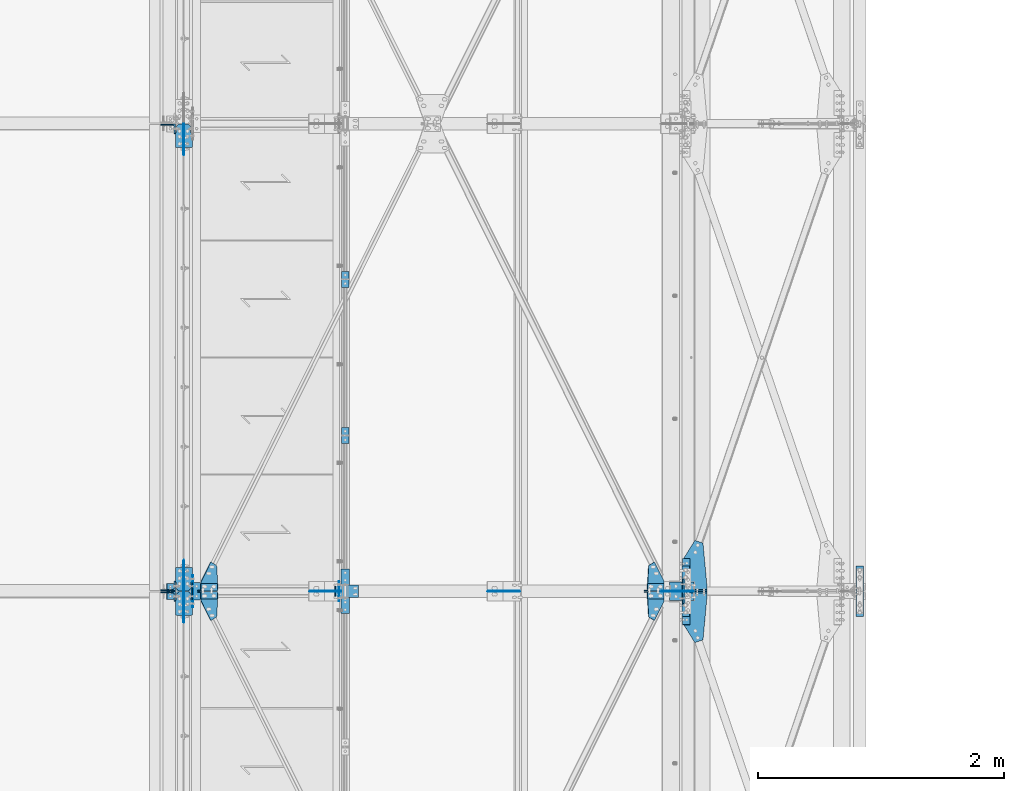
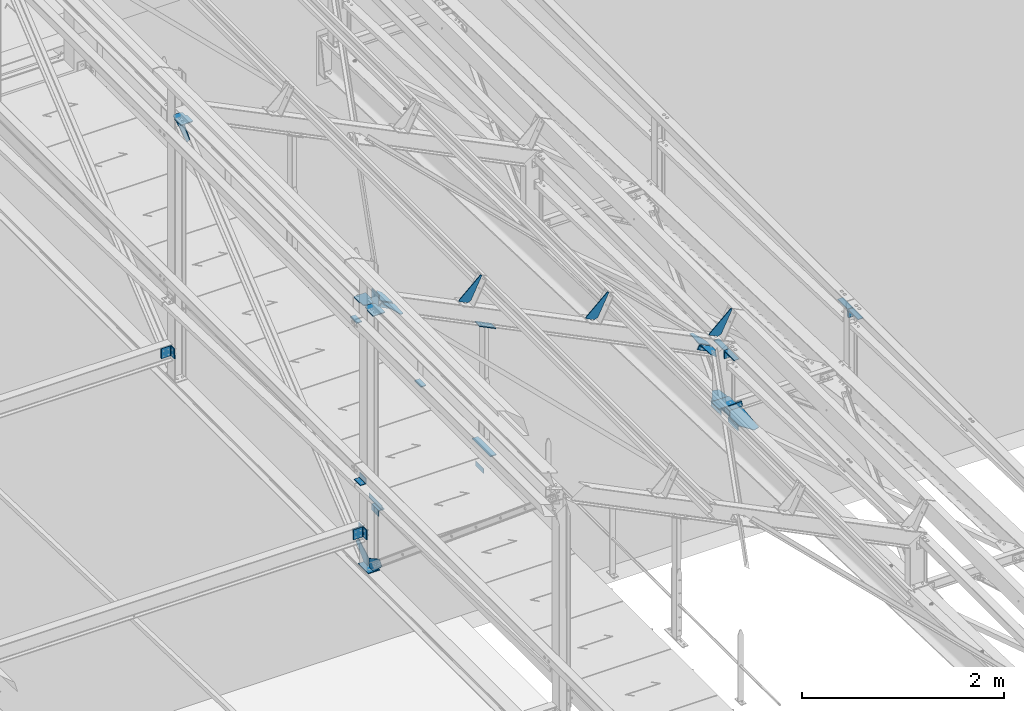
# One storey, part 109 of 362: 30 beams, 10 members, 31 elements without a shape of their own.
"""IFC2X3 building model written with IfcOpenShell, lengths in millimetres."""

from ifc_helpers import new_model, si_unit, frame, frame_2d, origin_with_axes, origin_2d_with_axis, place, context, subcontext, project, spatial, polyline, circle_curve, parameter, trimmed, segment, composite_curve, rectangle, l_section, outline, extrude, material, type_object, element, aggregate, save


model = new_model("IFC2X3")

# Units and contexts
model_context = context("Model", 3, precision=1e-05, world=origin_with_axes())
body_context = subcontext(model_context, "Body", "Model", "MODEL_VIEW")
ifc_project = project(units=[si_unit("LENGTHUNIT", "METRE", prefix="MILLI"), si_unit("AREAUNIT", "SQUARE_METRE"), si_unit("VOLUMEUNIT", "CUBIC_METRE"), si_unit("MASSUNIT", "GRAM", prefix="KILO"), si_unit("TIMEUNIT", "SECOND"), si_unit("PLANEANGLEUNIT", "RADIAN"), si_unit("SOLIDANGLEUNIT", "STERADIAN"), si_unit("THERMODYNAMICTEMPERATUREUNIT", "DEGREE_CELSIUS"), si_unit("LUMINOUSINTENSITYUNIT", "LUMEN")], contexts=[model_context])

# Site, building, storey
site_placement = place(None, origin_with_axes())
site = spatial("IfcSite", under=ifc_project, at=site_placement, Name="Undefined", CompositionType="ELEMENT")
building_placement = place(site_placement, origin_with_axes())
building = spatial("IfcBuilding", under=site, at=building_placement, Name="Undefined", CompositionType="ELEMENT")
storey_placement = place(building_placement, origin_with_axes())
storey = spatial("IfcBuildingStorey", under=building, at=storey_placement, Name="Undefined", CompositionType="ELEMENT", Elevation=0.0)

# Assembly, beams
assembly_1_placement = place(storey_placement, origin_with_axes())
assembly_1 = element("IfcElementAssembly", 1, at=assembly_1_placement, inside=storey, Name="MAIN COURANTE", AssemblyPlace="NOTDEFINED", PredefinedType="NOTDEFINED")
ifc_material = material(Name="Undefined/S235-E24")
beam_type_1 = type_object("IfcBeamType", Name="PL10*60", PredefinedType="NOTDEFINED")
beam_1_placement = place(assembly_1_placement, frame((35593.9917177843, 8930.00343196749, 8245.00000278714), z_axis=(-1.0, 0.0, 0.0), x_axis=(0.0, -1.0, 0.0)))
beam_1 = element("IfcBeam", 2, at=beam_1_placement, type_object=beam_type_1, material=ifc_material, Name="PLATINE", ObjectType="PL10*60", context=body_context, shape_type="SweptSolid", body=[
    extrude(rectangle(XDim=10.0, YDim=60.0, at=origin_2d_with_axis()), frame((130.0, 0.0, 0.0), z_axis=(-1.0, 0.0, 0.0), x_axis=(0.0, -1.0, 0.0)), (0.0, 0.0, 1.0), 130.0),
])
beam_2_placement = place(assembly_1_placement, frame((35593.9917188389, 10200.0034319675, 8245.00000191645), z_axis=(-1.0, 0.0, 0.0), x_axis=(0.0, -1.0, 0.0)))
beam_2 = element("IfcBeam", 3, at=beam_2_placement, type_object=beam_type_1, material=ifc_material, Name="PLATINE", ObjectType="PL10*60", context=body_context, shape_type="SweptSolid", body=[
    extrude(rectangle(XDim=10.0, YDim=60.0, at=origin_2d_with_axis()), frame((130.0, 0.0, 0.0), z_axis=(-1.0, 0.0, 0.0), x_axis=(0.0, -1.0, 0.0)), (0.0, 0.0, 1.0), 130.0),
])
aggregate(assembly_1, [beam_1, beam_2])

# Assembly, beam
assembly_2_placement = place(storey_placement, origin_with_axes())
assembly_2 = element("IfcElementAssembly", 4, at=assembly_2_placement, inside=storey, AssemblyPlace="NOTDEFINED", PredefinedType="NOTDEFINED")
beam_type_2 = type_object("IfcBeamType", Name="L60*6", PredefinedType="NOTDEFINED")
beam_3_placement = place(assembly_2_placement, frame((38365.0000000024, 7527.01910210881, 7657.37684430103), z_axis=(-1.05403257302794e-09, -0.0314112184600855, -0.999506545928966), x_axis=(0.0, -0.999506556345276, 0.031410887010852)))
beam_3 = element("IfcBeam", 5, at=beam_3_placement, type_object=beam_type_2, material=ifc_material, Name="ATTACHE", ObjectType="L60*6", context=body_context, shape_type="SweptSolid", body=[
    extrude(l_section(Depth=60.0, Width=60.0, Thickness=6.0, FilletRadius=8.0, EdgeRadius=4.0, at=origin_2d_with_axis()), frame((200.0, 0.0, 0.0), z_axis=(-1.0, 0.0, 0.0), x_axis=(0.0, -1.0, 0.0)), (0.0, 0.0, 1.0), 200.0),
])
aggregate(assembly_2, [beam_3])

assembly_3_placement = place(storey_placement, origin_with_axes())
assembly_3 = element("IfcElementAssembly", 6, at=assembly_3_placement, inside=storey, AssemblyPlace="NOTDEFINED", PredefinedType="NOTDEFINED")
beam_4_placement = place(assembly_3_placement, frame((38365.0000000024, 7866.85133378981, 7646.69722298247), z_axis=(-1.05403257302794e-09, -0.0314112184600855, -0.999506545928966), x_axis=(0.0, -0.999506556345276, 0.031410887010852)))
beam_4 = element("IfcBeam", 7, at=beam_4_placement, type_object=beam_type_2, material=ifc_material, Name="ATTACHE", ObjectType="L60*6", context=body_context, shape_type="SweptSolid", body=[
    extrude(l_section(Depth=60.0, Width=60.0, Thickness=6.0, FilletRadius=8.0, EdgeRadius=4.0, at=origin_2d_with_axis()), frame((200.0, 0.0, 0.0), z_axis=(-1.0, 0.0, 0.0), x_axis=(0.0, -1.0, 0.0)), (0.0, 0.0, 1.0), 200.0),
])
aggregate(assembly_3, [beam_4])

assembly_4_placement = place(storey_placement, origin_with_axes())
assembly_4 = element("IfcElementAssembly", 8, at=assembly_4_placement, inside=storey, Name="TRAVERSE SHED", AssemblyPlace="NOTDEFINED", PredefinedType="NOTDEFINED")
beam_type_3 = type_object("IfcBeamType", Name="PL10*200", PredefinedType="NOTDEFINED")
beam_5_placement = place(assembly_4_placement, frame((38330.0, 7674.80562184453, 7813.81292929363), z_axis=(-1.0, 0.0, 0.0), x_axis=(0.0, -0.999506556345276, 0.031410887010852)))
beam_5 = element("IfcBeam", 9, at=beam_5_placement, type_object=beam_type_3, material=ifc_material, Name="PLATINE", ObjectType="PL10*200", context=body_context, shape_type="SweptSolid", body=[
    extrude(rectangle(XDim=10.0, YDim=200.0, at=origin_2d_with_axis()), frame((150.0, 0.0, 0.0), z_axis=(-1.0, 0.0, 0.0), x_axis=(0.0, -1.0, 0.0)), (0.0, 0.0, 1.0), 150.0),
])

assembly_5_placement = place(storey_placement, origin_with_axes())
assembly_5 = element("IfcElementAssembly", 10, at=assembly_5_placement, inside=storey, AssemblyPlace="NOTDEFINED", PredefinedType="NOTDEFINED")
beam_type_4 = type_object("IfcBeamType", Name="L70*7", PredefinedType="NOTDEFINED")
beam_6_placement = place(assembly_5_placement, frame((34381.5000576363, 7530.0, 7915.0), z_axis=(1.0, 0.0, 0.0), x_axis=(0.0, 1.0, 0.0)))
beam_6 = element("IfcBeam", 11, at=beam_6_placement, type_object=beam_type_4, material=ifc_material, Name="ATTACHE", ObjectType="L70*7", context=body_context, shape_type="SweptSolid", body=[
    extrude(l_section(Depth=70.0, Width=70.0, Thickness=7.0, FilletRadius=9.0, EdgeRadius=4.5, at=origin_2d_with_axis()), frame((140.0, 0.0, 0.0), z_axis=(-1.0, 0.0, 0.0), x_axis=(0.0, -1.0, 0.0)), (0.0, 0.0, 1.0), 140.0),
])
aggregate(assembly_5, [beam_6])

assembly_6_placement = place(storey_placement, origin_with_axes())
assembly_6 = element("IfcElementAssembly", 12, at=assembly_6_placement, inside=storey, AssemblyPlace="NOTDEFINED", PredefinedType="NOTDEFINED")
beam_7_placement = place(assembly_6_placement, frame((34178.5001163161, 7664.81291402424, 8349.41493629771), z_axis=(0.0, 0.0314135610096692, 0.999506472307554), x_axis=(0.0, -0.999506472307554, 0.031413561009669)))
beam_7 = element("IfcBeam", 13, at=beam_7_placement, type_object=beam_type_4, material=ifc_material, Name="ATTACHE", ObjectType="L70*7", context=body_context, shape_type="SweptSolid", body=[
    extrude(l_section(Depth=70.0, Width=70.0, Thickness=7.0, FilletRadius=9.0, EdgeRadius=4.5, at=origin_2d_with_axis()), frame((130.004127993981, 0.0, 9.02084851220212e-16), z_axis=(-1.0, 0.0, 0.0), x_axis=(0.0, -1.0, 0.0)), (0.0, 0.0, 1.0), 130.0),
])
aggregate(assembly_6, [beam_7])

# Assembly, member
assembly_7_placement = place(storey_placement, origin_with_axes())
assembly_7 = element("IfcElementAssembly", 14, at=assembly_7_placement, inside=storey, AssemblyPlace="NOTDEFINED", PredefinedType="NOTDEFINED")
member_type_1 = type_object("IfcMemberType", Name="L60*6", PredefinedType="NOTDEFINED")
member_1_placement = place(assembly_7_placement, frame((38035.9186042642, 7567.00048471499, 8592.20874331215), z_axis=(0.0, -1.0, 0.0), x_axis=(0.897398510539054, 0.0, -0.44122093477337)))
member_1 = element("IfcMember", 15, at=member_1_placement, type_object=member_type_1, material=ifc_material, Name="ATTACHE", ObjectType="L60*6", context=body_context, shape_type="SweptSolid", body=[
    extrude(l_section(Depth=60.0, Width=60.0, Thickness=6.0, FilletRadius=8.0, EdgeRadius=4.0, at=origin_2d_with_axis()), frame((150.0, 0.0, 0.0), z_axis=(-1.0, 0.0, 0.0), x_axis=(0.0, -1.0, 0.0)), (0.0, 0.0, 1.0), 150.0),
])
aggregate(assembly_7, [member_1])

assembly_8_placement = place(storey_placement, origin_with_axes())
assembly_8 = element("IfcElementAssembly", 16, at=assembly_8_placement, inside=storey, AssemblyPlace="NOTDEFINED", PredefinedType="NOTDEFINED")
member_2_placement = place(assembly_8_placement, frame((38170.5284284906, 7633.00028154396, 8526.02570190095), z_axis=(0.0, 1.0, 0.0), x_axis=(-0.897398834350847, -3.60000012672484e-08, 0.441220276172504)))
member_2 = element("IfcMember", 17, at=member_2_placement, type_object=member_type_1, material=ifc_material, Name="ATTACHE", ObjectType="L60*6", context=body_context, shape_type="SweptSolid", body=[
    extrude(l_section(Depth=60.0, Width=60.0, Thickness=6.0, FilletRadius=8.0, EdgeRadius=4.0, at=origin_2d_with_axis()), frame((150.0, 0.0, 0.0), z_axis=(-1.0, 0.0, 0.0), x_axis=(0.0, -1.0, 0.0)), (0.0, 0.0, 1.0), 150.0),
])
aggregate(assembly_8, [member_2])

assembly_9_placement = place(storey_placement, origin_with_axes())
assembly_9 = element("IfcElementAssembly", 18, at=assembly_9_placement, inside=storey, AssemblyPlace="NOTDEFINED", PredefinedType="NOTDEFINED")
member_3_placement = place(assembly_9_placement, frame((34407.7040963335, 7567.00042689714, 10376.0796849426), z_axis=(0.0, -1.0, 0.0), x_axis=(0.897398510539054, 0.0, -0.44122093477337)))
member_3 = element("IfcMember", 19, at=member_3_placement, type_object=member_type_1, material=ifc_material, Name="ATTACHE", ObjectType="L60*6", context=body_context, shape_type="SweptSolid", body=[
    extrude(l_section(Depth=60.0, Width=60.0, Thickness=6.0, FilletRadius=8.0, EdgeRadius=4.0, at=origin_2d_with_axis()), frame((150.0, 0.0, 0.0), z_axis=(-1.0, 0.0, 0.0), x_axis=(0.0, -1.0, 0.0)), (0.0, 0.0, 1.0), 150.0),
])
aggregate(assembly_9, [member_3])

assembly_10_placement = place(storey_placement, origin_with_axes())
assembly_10 = element("IfcElementAssembly", 20, at=assembly_10_placement, inside=storey, AssemblyPlace="NOTDEFINED", PredefinedType="NOTDEFINED")
member_4_placement = place(assembly_10_placement, frame((34542.3138606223, 7633.00022373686, 10309.896521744), z_axis=(0.0, 1.0, 0.0), x_axis=(-0.897398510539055, -1.29999898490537e-08, 0.441220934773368)))
member_4 = element("IfcMember", 21, at=member_4_placement, type_object=member_type_1, material=ifc_material, Name="ATTACHE", ObjectType="L60*6", context=body_context, shape_type="SweptSolid", body=[
    extrude(l_section(Depth=60.0, Width=60.0, Thickness=6.0, FilletRadius=8.0, EdgeRadius=4.0, at=origin_2d_with_axis()), frame((150.0, 0.0, 0.0), z_axis=(-1.0, 0.0, 0.0), x_axis=(0.0, -1.0, 0.0)), (0.0, 0.0, 1.0), 150.0),
])
aggregate(assembly_10, [member_4])

# Assembly, beam
assembly_11_placement = place(storey_placement, origin_with_axes())
assembly_11 = element("IfcElementAssembly", 22, at=assembly_11_placement, inside=storey, Name="PANNE SHED", AssemblyPlace="NOTDEFINED", PredefinedType="NOTDEFINED")
beam_type_5 = type_object("IfcBeamType", Name="TOLE8*140", PredefinedType="NOTDEFINED")
beam_8_placement = place(assembly_11_placement, frame((38167.3881652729, 7600.0, 8712.54750741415), z_axis=(0.0, -1.0, 0.0), x_axis=(-0.441220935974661, 0.0, -0.89739850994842)))
beam_8 = element("IfcBeam", 23, at=beam_8_placement, type_object=beam_type_5, material=ifc_material, Name="RAIDISSEUR", ObjectType="TOLE8*140", context=body_context, shape_type="SweptSolid", body=[
    extrude(outline(polyline([(0.0, 0.0), (19.9999999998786, -3.63797880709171e-12), (20.0000000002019, 109.999999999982), (-9.99999999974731, 139.99998998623), (-300.0000000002, 139.999893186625), (-300.000000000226, 119.999893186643), (0.0, 0.0)])), frame((0.0, 0.0, -4.0), z_axis=(0.0, 0.0, 1.0), x_axis=(1.0, 0.0, 0.0)), (0.0, 0.0, 1.0), 8.0),
])
aggregate(assembly_11, [beam_8])

assembly_12_placement = place(storey_placement, origin_with_axes())
assembly_12 = element("IfcElementAssembly", 24, at=assembly_12_placement, inside=storey, Name="PANNE SHED", AssemblyPlace="NOTDEFINED", PredefinedType="NOTDEFINED")
beam_9_placement = place(assembly_12_placement, frame((36758.937741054, 7600.0, 9405.03563331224), z_axis=(0.0, -1.0, 0.0), x_axis=(-0.441220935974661, 0.0, -0.89739850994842)))
beam_9 = element("IfcBeam", 25, at=beam_9_placement, type_object=beam_type_5, material=ifc_material, Name="RAIDISSEUR", ObjectType="TOLE8*140", context=body_context, shape_type="SweptSolid", body=[
    extrude(outline(polyline([(0.0, 0.0), (19.9999999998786, -3.63797880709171e-12), (20.0000000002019, 109.999999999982), (-9.99999999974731, 139.99998998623), (-300.0000000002, 139.999893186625), (-300.000000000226, 119.999893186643), (0.0, 0.0)])), frame((0.0, 0.0, -4.0), z_axis=(0.0, 0.0, 1.0), x_axis=(1.0, 0.0, 0.0)), (0.0, 0.0, 1.0), 8.0),
])
aggregate(assembly_12, [beam_9])

assembly_13_placement = place(storey_placement, origin_with_axes())
assembly_13 = element("IfcElementAssembly", 26, at=assembly_13_placement, inside=storey, Name="PANNE SHED", AssemblyPlace="NOTDEFINED", PredefinedType="NOTDEFINED")
beam_10_placement = place(assembly_13_placement, frame((35310.1044072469, 7600.0, 10117.3786897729), z_axis=(0.0, -1.0, 0.0), x_axis=(-0.441220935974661, 0.0, -0.89739850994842)))
beam_10 = element("IfcBeam", 27, at=beam_10_placement, type_object=beam_type_5, material=ifc_material, Name="RAIDISSEUR", ObjectType="TOLE8*140", context=body_context, shape_type="SweptSolid", body=[
    extrude(outline(polyline([(0.0, 0.0), (19.9999999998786, -3.63797880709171e-12), (20.0000000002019, 109.999999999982), (-9.99999999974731, 139.99998998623), (-300.0000000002, 139.999893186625), (-300.000000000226, 119.999893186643), (0.0, 0.0)])), frame((0.0, 0.0, -4.0), z_axis=(0.0, 0.0, 1.0), x_axis=(1.0, 0.0, 0.0)), (0.0, 0.0, 1.0), 8.0),
])
aggregate(assembly_13, [beam_10])

# Assembly, member
assembly_14_placement = place(storey_placement, origin_with_axes())
assembly_14 = element("IfcElementAssembly", 28, at=assembly_14_placement, inside=storey, AssemblyPlace="NOTDEFINED", PredefinedType="NOTDEFINED")
member_type_2 = type_object("IfcMemberType", Name="L200*100*10", PredefinedType="NOTDEFINED")
member_5_placement = place(assembly_14_placement, frame((38435.0, 7651.71824061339, 7709.48564043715), z_axis=(1.0, 0.0, 0.0), x_axis=(7.58071938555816e-11, 0.0314107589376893, 0.999506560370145)))
member_5 = element("IfcMember", 29, at=member_5_placement, type_object=member_type_2, material=ifc_material, Name="ATTACHE", ObjectType="L200*100*10", context=body_context, shape_type="SweptSolid", body=[
    extrude(l_section(Depth=200.0, Width=100.0, Thickness=10.0, FilletRadius=15.0, EdgeRadius=7.5, at=origin_2d_with_axis()), frame((60.0, 0.0, 0.0), z_axis=(-1.0, 0.0, 0.0), x_axis=(0.0, -1.0, 0.0)), (0.0, 0.0, 1.0), 60.0),
])
aggregate(assembly_14, [member_5])

assembly_15_placement = place(storey_placement, origin_with_axes())
assembly_15 = element("IfcElementAssembly", 30, at=assembly_15_placement, inside=storey, AssemblyPlace="NOTDEFINED", PredefinedType="NOTDEFINED")
member_6_placement = place(assembly_15_placement, frame((38435.0000000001, 7547.65438248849, 7772.78568749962), z_axis=(1.0, 0.0, 0.0), x_axis=(-1.05403257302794e-09, -0.0314112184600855, -0.999506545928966)))
member_6 = element("IfcMember", 31, at=member_6_placement, type_object=member_type_2, material=ifc_material, Name="ATTACHE", ObjectType="L200*100*10", context=body_context, shape_type="SweptSolid", body=[
    extrude(l_section(Depth=200.0, Width=100.0, Thickness=10.0, FilletRadius=15.0, EdgeRadius=7.5, at=origin_2d_with_axis()), frame((60.0, 0.0, 0.0), z_axis=(-1.0, 0.0, 0.0), x_axis=(0.0, -1.0, 0.0)), (0.0, 0.0, 1.0), 60.0),
])
aggregate(assembly_15, [member_6])

# Assembly, beam
assembly_16_placement = place(storey_placement, origin_with_axes())
assembly_16 = element("IfcElementAssembly", 32, at=assembly_16_placement, inside=storey, Name="MONTANT", AssemblyPlace="NOTDEFINED", PredefinedType="NOTDEFINED")
beam_type_6 = type_object("IfcBeamType", Name="PL10*133", PredefinedType="NOTDEFINED")
beam_11_placement = place(assembly_16_placement, frame((34280.0, 7700.00000000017, 7255.00000000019), z_axis=(1.0, 0.0, 0.0), x_axis=(0.0, -1.0, 0.0)))
beam_11 = element("IfcBeam", 33, at=beam_11_placement, type_object=beam_type_6, material=ifc_material, Name="PLATINE", ObjectType="PL10*133", context=body_context, shape_type="SweptSolid", body=[
    extrude(rectangle(XDim=10.0, YDim=133.0, at=origin_2d_with_axis()), frame((200.0, 0.0, 0.0), z_axis=(-1.0, 0.0, 0.0), x_axis=(0.0, -1.0, 0.0)), (0.0, 0.0, 1.0), 200.0),
])

assembly_17_placement = place(storey_placement, origin_with_axes())
assembly_17 = element("IfcElementAssembly", 34, at=assembly_17_placement, inside=storey, AssemblyPlace="NOTDEFINED", PredefinedType="NOTDEFINED")
beam_type_7 = type_object("IfcBeamType", Name="L200*100*10", PredefinedType="NOTDEFINED")
beam_12_placement = place(assembly_17_placement, frame((39805.0, 7703.5, 8400.0), z_axis=(0.0, 1.0, 0.0), x_axis=(-1.0, 0.0, 0.0)))
beam_12 = element("IfcBeam", 35, at=beam_12_placement, type_object=beam_type_7, material=ifc_material, Name="ATTACHE", ObjectType="L200*100*10", context=body_context, shape_type="SweptSolid", body=[
    extrude(l_section(Depth=200.0, Width=100.0, Thickness=10.0, FilletRadius=15.0, EdgeRadius=7.5, at=origin_2d_with_axis()), frame((60.0, 0.0, 0.0), z_axis=(-1.0, 0.0, 0.0), x_axis=(0.0, -1.0, 0.0)), (0.0, 0.0, 1.0), 60.0),
])
aggregate(assembly_17, [beam_12])

assembly_18_placement = place(storey_placement, origin_with_axes())
assembly_18 = element("IfcElementAssembly", 36, at=assembly_18_placement, inside=storey, AssemblyPlace="NOTDEFINED", PredefinedType="NOTDEFINED")
beam_13_placement = place(assembly_18_placement, frame((39745.0, 7496.5, 8400.0), z_axis=(0.0, -1.0, 0.0), x_axis=(1.0, 0.0, 0.0)))
beam_13 = element("IfcBeam", 37, at=beam_13_placement, type_object=beam_type_7, material=ifc_material, Name="ATTACHE", ObjectType="L200*100*10", context=body_context, shape_type="SweptSolid", body=[
    extrude(l_section(Depth=200.0, Width=100.0, Thickness=10.0, FilletRadius=15.0, EdgeRadius=7.5, at=origin_2d_with_axis()), frame((60.0, 0.0, 0.0), z_axis=(-1.0, 0.0, 0.0), x_axis=(0.0, -1.0, 0.0)), (0.0, 0.0, 1.0), 60.0),
])
aggregate(assembly_18, [beam_13])

assembly_19_placement = place(storey_placement, origin_with_axes())
assembly_19 = element("IfcElementAssembly", 38, at=assembly_19_placement, inside=storey, AssemblyPlace="NOTDEFINED", PredefinedType="NOTDEFINED")
beam_14_placement = place(assembly_19_placement, frame((38390.0, 7703.5, 8400.0), z_axis=(0.0, 1.0, 0.0), x_axis=(-1.0, 0.0, 0.0)))
beam_14 = element("IfcBeam", 39, at=beam_14_placement, type_object=beam_type_7, material=ifc_material, Name="ATTACHE", ObjectType="L200*100*10", context=body_context, shape_type="SweptSolid", body=[
    extrude(l_section(Depth=200.0, Width=100.0, Thickness=10.0, FilletRadius=15.0, EdgeRadius=7.5, at=origin_2d_with_axis()), frame((60.0, 0.0, 0.0), z_axis=(-1.0, 0.0, 0.0), x_axis=(0.0, -1.0, 0.0)), (0.0, 0.0, 1.0), 60.0),
])
aggregate(assembly_19, [beam_14])

assembly_20_placement = place(storey_placement, origin_with_axes())
assembly_20 = element("IfcElementAssembly", 40, at=assembly_20_placement, inside=storey, AssemblyPlace="NOTDEFINED", PredefinedType="NOTDEFINED")
beam_15_placement = place(assembly_20_placement, frame((38330.0, 7496.5, 8400.0), z_axis=(0.0, -1.0, 0.0), x_axis=(1.0, 0.0, 0.0)))
beam_15 = element("IfcBeam", 41, at=beam_15_placement, type_object=beam_type_7, material=ifc_material, Name="ATTACHE", ObjectType="L200*100*10", context=body_context, shape_type="SweptSolid", body=[
    extrude(l_section(Depth=200.0, Width=100.0, Thickness=10.0, FilletRadius=15.0, EdgeRadius=7.5, at=origin_2d_with_axis()), frame((60.0, 0.0, 0.0), z_axis=(-1.0, 0.0, 0.0), x_axis=(0.0, -1.0, 0.0)), (0.0, 0.0, 1.0), 60.0),
])
aggregate(assembly_20, [beam_15])

# Assembly, member
assembly_21_placement = place(storey_placement, origin_with_axes())
assembly_21 = element("IfcElementAssembly", 42, at=assembly_21_placement, inside=storey, AssemblyPlace="NOTDEFINED", PredefinedType="NOTDEFINED")
member_type_3 = type_object("IfcMemberType", Name="PL10*100", PredefinedType="NOTDEFINED")
member_7_placement = place(assembly_21_placement, frame((35511.0197434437, 7600.00000001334, 9756.72720417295), z_axis=(0.0, -1.0, 0.0), x_axis=(0.897398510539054, 0.0, -0.44122093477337)))
member_7 = element("IfcMember", 43, at=member_7_placement, type_object=member_type_3, material=ifc_material, Name="PLATINE", ObjectType="PL10*100", context=body_context, shape_type="SweptSolid", body=[
    extrude(rectangle(XDim=10.0, YDim=100.0, at=origin_2d_with_axis()), frame((210.000000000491, 0.0, 1.81898940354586e-12), z_axis=(-1.0, 0.0, 0.0), x_axis=(0.0, -1.0, 0.0)), (0.0, 0.0, 1.0), 210.0),
])

# Assembly, beams
assembly_22_placement = place(storey_placement, origin_with_axes())
assembly_22 = element("IfcElementAssembly", 44, at=assembly_22_placement, inside=storey, AssemblyPlace="NOTDEFINED", PredefinedType="NOTDEFINED")
beam_type_8 = type_object("IfcBeamType", Name="TOLE6*60", PredefinedType="NOTDEFINED")
beam_16_placement = place(assembly_22_placement, frame((35542.9917140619, 7520.0, 7985.0), z_axis=(-1.0, 0.0, 0.0), x_axis=(0.0, 0.0, 1.0)))
beam_16 = element("IfcBeam", 45, at=beam_16_placement, type_object=beam_type_8, material=ifc_material, Name="PLATINE", ObjectType="TOLE6*60", context=body_context, shape_type="SweptSolid", body=[
    extrude(outline(polyline([(0.0, 0.0), (60.0, 0.0), (60.0, 159.999984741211), (0.0, 159.999984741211), (0.0, 0.0)])), frame((0.0, 0.0, -3.0), z_axis=(0.0, 0.0, 1.0), x_axis=(1.0, 0.0, 0.0)), (0.0, 0.0, 1.0), 6.0),
])
beam_17_placement = place(assembly_22_placement, frame((34354.991943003, 7470.0, 7985.0), z_axis=(-1.0, 0.0, 0.0), x_axis=(0.0, 0.0, 1.0)))
beam_17 = element("IfcBeam", 46, at=beam_17_placement, type_object=beam_type_8, material=ifc_material, Name="PLATINE", ObjectType="TOLE6*60", context=body_context, shape_type="SweptSolid", body=[
    extrude(outline(polyline([(0.0, 0.0), (60.0, 0.0), (60.0, 260.0), (0.0, 260.0), (0.0, 0.0)])), frame((0.0, 0.0, -3.0), z_axis=(0.0, 0.0, 1.0), x_axis=(1.0, 0.0, 0.0)), (0.0, 0.0, 1.0), 6.0),
])
aggregate(assembly_22, [beam_16, beam_17])

# Beam
beam_type_9 = type_object("IfcBeamType", Name="PL10*70", PredefinedType="NOTDEFINED")
beam_18_placement = place(assembly_21_placement, frame((35593.9917140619, 7780.00010616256, 8245.00000367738), z_axis=(1.0, 0.0, 0.0), x_axis=(0.0, -1.0, 0.0)))
beam_18 = element("IfcBeam", 47, at=beam_18_placement, type_object=beam_type_9, material=ifc_material, Name="PLATINE", ObjectType="PL10*70", context=body_context, shape_type="SweptSolid", body=[
    extrude(rectangle(XDim=10.0, YDim=70.0, at=origin_2d_with_axis()), frame((360.000000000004, 0.0, 0.0), z_axis=(-1.0, 0.0, 0.0), x_axis=(0.0, -1.0, 0.0)), (0.0, 0.0, 1.0), 360.0),
])

aggregate(assembly_21, [member_7, beam_18])

beam_type_10 = type_object("IfcBeamType", Name="PL10*140", PredefinedType="NOTDEFINED")
beam_19_placement = place(assembly_4_placement, frame((34351.5, 7600.0, 10548.0682550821), z_axis=(0.0, -1.0, 0.0), x_axis=(0.0, 0.0, -1.0)))
beam_19 = element("IfcBeam", 48, at=beam_19_placement, type_object=beam_type_10, material=ifc_material, Name="PLATINE", ObjectType="PL10*140", context=body_context, shape_type="SweptSolid", body=[
    extrude(rectangle(XDim=10.0, YDim=140.0, at=origin_2d_with_axis()), frame((213.394604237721, 0.0, 0.0), z_axis=(-1.0, 0.0, 0.0), x_axis=(0.0, -1.0, 0.0)), (0.0, 0.0, 1.0), 213.39),
])

aggregate(assembly_4, [beam_5, beam_19])

# Assembly, beam
assembly_23_placement = place(storey_placement, origin_with_axes())
assembly_23 = element("IfcElementAssembly", 49, at=assembly_23_placement, inside=storey, AssemblyPlace="NOTDEFINED", PredefinedType="NOTDEFINED")
beam_type_11 = type_object("IfcBeamType", Name="TOLE6*164", PredefinedType="NOTDEFINED")
beam_20_placement = place(assembly_23_placement, frame((38059.1847717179, 7390.7417709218, 8617.5425833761), z_axis=(0.44122107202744, 0.0, 0.89739844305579), x_axis=(0.784869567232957, -0.484835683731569, -0.385893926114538)))
beam_20 = element("IfcBeam", 50, at=beam_20_placement, type_object=beam_type_11, material=ifc_material, Name="GOUSSET", ObjectType="TOLE6*164", context=body_context, shape_type="SweptSolid", body=[
    extrude(outline(polyline([(0.0, 0.0), (60.0, 0.0), (60.000000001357, 181.13842773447), (27.5527534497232, 239.6707305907), (-103.638031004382, 166.945343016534), (-79.3962478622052, 123.215103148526), (0.0, 0.0)])), frame((0.0, 0.0, -3.0), z_axis=(0.0, 0.0, 1.0), x_axis=(1.0, 0.0, 0.0)), (0.0, 0.0, 1.0), 6.0),
])
aggregate(assembly_23, [beam_20])

assembly_24_placement = place(storey_placement, origin_with_axes())
assembly_24 = element("IfcElementAssembly", 51, at=assembly_24_placement, inside=storey, AssemblyPlace="NOTDEFINED", PredefinedType="NOTDEFINED")
beam_21_placement = place(assembly_24_placement, frame((38059.1847654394, 7809.25899063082, 8617.54258337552), z_axis=(-0.441220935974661, 0.0, -0.89739850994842), x_axis=(0.784869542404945, 0.484835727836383, -0.385893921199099)))
beam_21 = element("IfcBeam", 52, at=beam_21_placement, type_object=beam_type_11, material=ifc_material, Name="GOUSSET", ObjectType="TOLE6*164", context=body_context, shape_type="SweptSolid", body=[
    extrude(outline(polyline([(0.0, 0.0), (60.0, 0.0), (60.000000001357, 181.13842773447), (27.5527534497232, 239.6707305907), (-103.638031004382, 166.945343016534), (-79.3962478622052, 123.215103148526), (0.0, 0.0)])), frame((0.0, 0.0, -3.0), z_axis=(0.0, 0.0, 1.0), x_axis=(1.0, 0.0, 0.0)), (0.0, 0.0, 1.0), 6.0),
])
aggregate(assembly_24, [beam_21])

assembly_25_placement = place(storey_placement, origin_with_axes())
assembly_25 = element("IfcElementAssembly", 53, at=assembly_25_placement, inside=storey, AssemblyPlace="NOTDEFINED", PredefinedType="NOTDEFINED")
beam_22_placement = place(assembly_25_placement, frame((34548.1683232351, 7390.74171824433, 10343.791111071), z_axis=(-0.441220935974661, 0.0, -0.89739850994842), x_axis=(-0.78486955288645, -0.48483570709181, 0.385893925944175)))
beam_22 = element("IfcBeam", 54, at=beam_22_placement, type_object=beam_type_11, material=ifc_material, Name="GOUSSET", ObjectType="TOLE6*164", context=body_context, shape_type="SweptSolid", body=[
    extrude(outline(polyline([(0.0, 0.0), (60.0, 0.0), (60.000000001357, 181.13842773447), (27.5527534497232, 239.6707305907), (-103.638031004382, 166.945343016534), (-79.3962478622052, 123.215103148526), (0.0, 0.0)])), frame((0.0, 0.0, -3.0), z_axis=(0.0, 0.0, 1.0), x_axis=(1.0, 0.0, 0.0)), (0.0, 0.0, 1.0), 6.0),
])
aggregate(assembly_25, [beam_22])

assembly_26_placement = place(storey_placement, origin_with_axes())
assembly_26 = element("IfcElementAssembly", 55, at=assembly_26_placement, inside=storey, AssemblyPlace="NOTDEFINED", PredefinedType="NOTDEFINED")
beam_23_placement = place(assembly_26_placement, frame((34548.1683169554, 7809.25893795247, 10343.7911110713), z_axis=(0.44122107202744, 0.0, 0.89739844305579), x_axis=(-0.78486955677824, 0.484835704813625, 0.385893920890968)))
beam_23 = element("IfcBeam", 56, at=beam_23_placement, type_object=beam_type_11, material=ifc_material, Name="GOUSSET", ObjectType="TOLE6*164", context=body_context, shape_type="SweptSolid", body=[
    extrude(outline(polyline([(0.0, 0.0), (60.0, 0.0), (60.000000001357, 181.13842773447), (27.5527534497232, 239.6707305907), (-103.638031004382, 166.945343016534), (-79.3962478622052, 123.215103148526), (0.0, 0.0)])), frame((0.0, 0.0, -3.0), z_axis=(0.0, 0.0, 1.0), x_axis=(1.0, 0.0, 0.0)), (0.0, 0.0, 1.0), 6.0),
])
aggregate(assembly_26, [beam_23])

assembly_27_placement = place(storey_placement, origin_with_axes())
assembly_27 = element("IfcElementAssembly", 57, at=assembly_27_placement, inside=storey, AssemblyPlace="NOTDEFINED", PredefinedType="NOTDEFINED")
beam_type_12 = type_object("IfcBeamType", Name="TOLE6*190", PredefinedType="NOTDEFINED")
beam_24_placement = place(assembly_27_placement, frame((38435.2715292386, 8013.86021399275, 7675.09357304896), z_axis=(7.58071938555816e-11, 0.0314107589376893, 0.999506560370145), x_axis=(-0.525777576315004, -0.850202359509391, 0.0267186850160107)))
beam_24 = element("IfcBeam", 58, at=beam_24_placement, type_object=beam_type_12, material=ifc_material, Name="GOUSSET", ObjectType="TOLE6*190", context=body_context, shape_type="SweptSolid", body=[
    extrude(outline(polyline([(0.0, 0.0), (171.691329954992, 6.33008312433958e-10), (631.027099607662, 283.920135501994), (707.794555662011, 437.495086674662), (653.704650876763, 481.928009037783), (328.681274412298, 320.403106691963), (274.241485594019, 286.753295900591), (-15.5598268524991, 68.2487487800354), (0.0, 0.0)])), frame((0.0, 0.0, -3.0), z_axis=(0.0, 0.0, 1.0), x_axis=(1.0, 0.0, 0.0)), (0.0, 0.0, 1.0), 6.0),
])
aggregate(assembly_27, [beam_24])

# Assembly, member
assembly_28_placement = place(storey_placement, origin_with_axes())
assembly_28 = element("IfcElementAssembly", 59, at=assembly_28_placement, inside=storey, AssemblyPlace="NOTDEFINED", PredefinedType="NOTDEFINED")
member_type_4 = type_object("IfcMemberType", Name="L120*80*10", PredefinedType="NOTDEFINED")
member_8_placement = place(assembly_28_placement, frame((34153.5000000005, 7644.86435677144, 7769.73062464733), z_axis=(-1.0, 0.0, 0.0), x_axis=(-1.05403257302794e-09, -0.0314112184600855, -0.999506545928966)))
member_8 = element("IfcMember", 60, at=member_8_placement, type_object=member_type_4, material=ifc_material, Name="ATTACHE", ObjectType="L120*80*10", context=body_context, shape_type="SweptSolid", body=[
    extrude(l_section(Depth=120.0, Width=80.0, Thickness=10.0, FilletRadius=11.0, EdgeRadius=5.5, at=origin_2d_with_axis()), frame((120.0, 0.0, 0.0), z_axis=(-1.0, 0.0, 0.0), x_axis=(0.0, -1.0, 0.0)), (0.0, 0.0, 1.0), 120.0),
])
aggregate(assembly_28, [member_8])

assembly_29_placement = place(storey_placement, origin_with_axes())
assembly_29 = element("IfcElementAssembly", 61, at=assembly_29_placement, inside=storey, AssemblyPlace="NOTDEFINED", PredefinedType="NOTDEFINED")
member_9_placement = place(assembly_29_placement, frame((34153.5000000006, 7555.1365857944, 7652.49123097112), z_axis=(-1.0, 0.0, 0.0), x_axis=(7.58071938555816e-11, 0.0314107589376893, 0.999506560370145)))
member_9 = element("IfcMember", 62, at=member_9_placement, type_object=member_type_4, material=ifc_material, Name="ATTACHE", ObjectType="L120*80*10", context=body_context, shape_type="SweptSolid", body=[
    extrude(l_section(Depth=120.0, Width=80.0, Thickness=10.0, FilletRadius=11.0, EdgeRadius=5.5, at=origin_2d_with_axis()), frame((120.0, 0.0, 0.0), z_axis=(-1.0, 0.0, 0.0), x_axis=(0.0, -1.0, 0.0)), (0.0, 0.0, 1.0), 120.0),
])
aggregate(assembly_29, [member_9])

assembly_30_placement = place(storey_placement, origin_with_axes())
assembly_30 = element("IfcElementAssembly", 63, at=assembly_30_placement, inside=storey, AssemblyPlace="NOTDEFINED", PredefinedType="NOTDEFINED")
member_10_placement = place(assembly_30_placement, frame((34153.5000000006, 11355.1365315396, 7533.0696751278), z_axis=(-1.0, 0.0, 0.0), x_axis=(7.58071938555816e-11, 0.0314107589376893, 0.999506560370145)))
member_10 = element("IfcMember", 64, at=member_10_placement, type_object=member_type_4, material=ifc_material, Name="ATTACHE", ObjectType="L120*80*10", context=body_context, shape_type="SweptSolid", body=[
    extrude(l_section(Depth=120.0, Width=80.0, Thickness=10.0, FilletRadius=11.0, EdgeRadius=5.5, at=origin_2d_with_axis()), frame((120.0, 0.0, 0.0), z_axis=(-1.0, 0.0, 0.0), x_axis=(0.0, -1.0, 0.0)), (0.0, 0.0, 1.0), 120.0),
])
aggregate(assembly_30, [member_10])

# Assembly, beam
assembly_31_placement = place(storey_placement, origin_with_axes())
assembly_31 = element("IfcElementAssembly", 65, at=assembly_31_placement, inside=storey, Name="MONTANT", AssemblyPlace="NOTDEFINED", PredefinedType="NOTDEFINED")
beam_type_13 = type_object("IfcBeamType", Name="TOLE8*213", PredefinedType="NOTDEFINED")
beam_25_placement = place(assembly_31_placement, frame((34280.0, 11279.9969221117, 10413.0), z_axis=(-1.0, 0.0, 0.0), x_axis=(0.0, 1.0, 0.0)))
beam_25 = element("IfcBeam", 66, at=beam_25_placement, type_object=beam_type_13, material=ifc_material, Name="GOUSSET", ObjectType="TOLE8*213", context=body_context, shape_type="SweptSolid", body=[
    extrude(outline(polyline([(0.0, 0.0), (97.25, 0.0), (117.25, 20.0), (117.25, 100.0), (-84.6368789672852, 212.985397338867), (-135.912002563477, 151.578063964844), (0.0, 0.0)])), frame((0.0, 0.0, -4.0), z_axis=(0.0, 0.0, 1.0), x_axis=(1.0, 0.0, 0.0)), (0.0, 0.0, 1.0), 8.0),
])

# Beam
beam_type_14 = type_object("IfcBeamType", Name="TOLE8*135", PredefinedType="NOTDEFINED")
beam_26_placement = place(assembly_16_placement, frame((34280.0, 7597.25, 7360.0), z_axis=(-1.0, 0.0, 0.0), x_axis=(0.0, 0.0, -1.0)))
beam_26 = element("IfcBeam", 67, at=beam_26_placement, type_object=beam_type_14, material=ifc_material, Name="GOUSSET", ObjectType="TOLE8*135", context=body_context, shape_type="SweptSolid", body=[
    extrude(outline(polyline([(0.0, 0.0), (80.00000000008, 8.00355337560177e-11), (100.0, 20.0), (100.0, 97.25), (-51.5780563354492, 253.165084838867), (-112.985397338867, 201.88996887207), (0.0, 0.0)])), frame((0.0, 0.0, -4.0), z_axis=(0.0, 0.0, 1.0), x_axis=(1.0, 0.0, 0.0)), (0.0, 0.0, 1.0), 8.0),
])

beam_27_placement = place(assembly_16_placement, frame((34280.0, 7700.0, 7260.0), z_axis=(-1.0, 0.0, 0.0), x_axis=(0.0, -1.0, 0.0)))
beam_27 = element("IfcBeam", 68, at=beam_27_placement, type_object=beam_type_14, material=ifc_material, Name="GOUSSET", ObjectType="TOLE8*135", context=body_context, shape_type="SweptSolid", body=[
    extrude(outline(polyline([(0.0, 0.0), (77.25, 0.0), (97.25, 20.0), (97.25, 100.0), (-104.639953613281, 212.985397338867), (-155.915084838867, 151.578063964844), (0.0, 0.0)])), frame((0.0, 0.0, -4.0), z_axis=(0.0, 0.0, 1.0), x_axis=(1.0, 0.0, 0.0)), (0.0, 0.0, 1.0), 8.0),
])

beam_type_15 = type_object("IfcBeamType", Name="TOLE10*192", PredefinedType="NOTDEFINED")
beam_28_placement = place(assembly_16_placement, frame((34213.5, 7404.99692211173, 10418.0), z_axis=(0.0, 0.0, -1.0), x_axis=(0.0, 1.0, 0.0)))
beam_28 = element("IfcBeam", 69, at=beam_28_placement, type_object=beam_type_15, material=ifc_material, Name="PLAT", ObjectType="TOLE10*192", context=body_context, shape_type="SweptSolid", body=[
    extrude(outline(composite_curve([segment(trimmed(circle_curve(frame_2d((10.0, 10.0), x_axis=(-1.0, 0.0)), 10.0), [parameter(0.0)], [parameter(1.5707963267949)], True, "PARAMETER"), True, "CONTINUOUS"), segment(polyline([(9.99999999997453, 6.91215973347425e-11), (124.5, 0.0), (124.5, 9.0), (172.25, 9.0), (192.25, 29.0), (192.25, 104.0), (172.25, 124.0), (124.0, 124.0), (124.0, 140.0), (10.0, 140.0)]), True, "CONTINUOUS"), segment(trimmed(circle_curve(frame_2d((10.0, 130.0), x_axis=(0.0, 1.0)), 10.0), [parameter(0.0)], [parameter(1.5707963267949)], True, "PARAMETER"), True, "CONTINUOUS"), segment(polyline([(0.0, 130.0), (-1.81898940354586e-10, 10.0000000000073)]), True, "CONTINUOUS")], self_intersect=True)), frame((0.0, 0.0, -5.0), z_axis=(0.0, 0.0, 1.0), x_axis=(1.0, 0.0, 0.0)), (0.0, 0.0, 1.0), 10.0),
])

beam_29_placement = place(assembly_16_placement, frame((34213.5, 7795.0, 10418.0), z_axis=(0.0, 0.0, 1.0), x_axis=(0.0, -1.0, 0.0)))
beam_29 = element("IfcBeam", 70, at=beam_29_placement, type_object=beam_type_15, material=ifc_material, Name="PLAT", ObjectType="TOLE10*192", context=body_context, shape_type="SweptSolid", body=[
    extrude(outline(composite_curve([segment(trimmed(circle_curve(frame_2d((10.0, 10.0), x_axis=(-1.0, 0.0)), 10.0), [parameter(0.0)], [parameter(1.5707963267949)], True, "PARAMETER"), True, "CONTINUOUS"), segment(polyline([(9.99999999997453, 6.91215973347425e-11), (124.5, 0.0), (124.5, 9.0), (172.25, 9.0), (192.25, 29.0), (192.25, 104.0), (172.25, 124.0), (124.0, 124.0), (124.0, 140.0), (10.0, 140.0)]), True, "CONTINUOUS"), segment(trimmed(circle_curve(frame_2d((10.0, 130.0), x_axis=(0.0, 1.0)), 10.0), [parameter(0.0)], [parameter(1.5707963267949)], True, "PARAMETER"), True, "CONTINUOUS"), segment(polyline([(0.0, 130.0), (-1.81898940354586e-10, 10.0000000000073)]), True, "CONTINUOUS")], self_intersect=True)), frame((0.0, 0.0, -5.0), z_axis=(0.0, 0.0, 1.0), x_axis=(1.0, 0.0, 0.0)), (0.0, 0.0, 1.0), 10.0),
])

aggregate(assembly_16, [beam_28, beam_29, beam_26, beam_27, beam_11])

beam_30_placement = place(assembly_31_placement, frame((34213.5, 11204.9969221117, 10418.0), z_axis=(0.0, 0.0, -1.0), x_axis=(0.0, 1.0, 0.0)))
beam_30 = element("IfcBeam", 71, at=beam_30_placement, type_object=beam_type_15, material=ifc_material, Name="PLAT", ObjectType="TOLE10*192", context=body_context, shape_type="SweptSolid", body=[
    extrude(outline(composite_curve([segment(trimmed(circle_curve(frame_2d((10.0, 10.0), x_axis=(-1.0, 0.0)), 10.0), [parameter(0.0)], [parameter(1.5707963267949)], True, "PARAMETER"), True, "CONTINUOUS"), segment(polyline([(9.99999999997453, 6.91215973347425e-11), (124.5, 0.0), (124.5, 9.0), (172.25, 9.0), (192.25, 29.0), (192.25, 104.0), (172.25, 124.0), (124.0, 124.0), (124.0, 140.0), (10.0, 140.0)]), True, "CONTINUOUS"), segment(trimmed(circle_curve(frame_2d((10.0, 130.0), x_axis=(0.0, 1.0)), 10.0), [parameter(0.0)], [parameter(1.5707963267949)], True, "PARAMETER"), True, "CONTINUOUS"), segment(polyline([(0.0, 130.0), (-1.81898940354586e-10, 10.0000000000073)]), True, "CONTINUOUS")], self_intersect=True)), frame((0.0, 0.0, -5.0), z_axis=(0.0, 0.0, 1.0), x_axis=(1.0, 0.0, 0.0)), (0.0, 0.0, 1.0), 10.0),
])

aggregate(assembly_31, [beam_25, beam_30])

save(model, "model.ifc")
